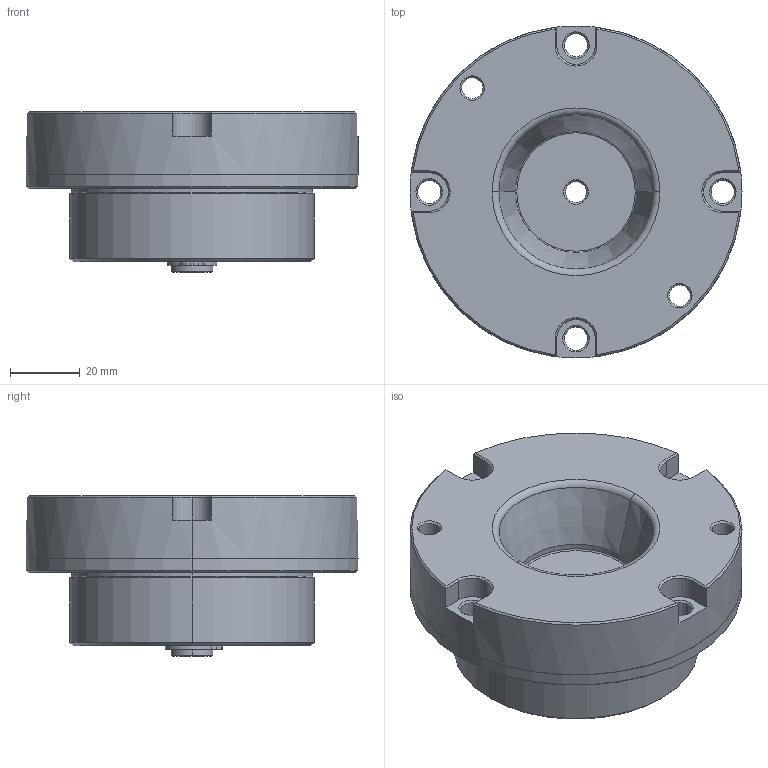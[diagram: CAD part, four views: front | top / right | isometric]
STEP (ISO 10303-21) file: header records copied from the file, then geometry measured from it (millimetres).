
FILE_DESCRIPTION (( 'STEP AP203' ), '1' );
FILE_NAME ('cp725-56095.STEP', '2021-10-25T23:38:58', ( '' ), ( '' ), 'SwSTEP 2.0', 'SolidWorks 2020', '' );
FILE_SCHEMA (( 'CONFIG_CONTROL_DESIGN' ));
Length unit declared in the file: millimetre
Products named in the file (1): cp725-56095
Bounding box: 95 x 95 x 46 mm (x, y, z)
Volume: 182925.5 mm3; surface area: 39607.2 mm2
Topology: 1 solids, 2 shells, 162 faces, 369 edges, 221 vertices
Faces by surface type: cylinder 56, cone 49, plane 41, torus 16
Entity records: 4681 total; most frequent: DIRECTION 896, CARTESIAN_POINT 777, ORIENTED_EDGE 738, AXIS2_PLACEMENT_3D 372, EDGE_CURVE 369, VERTEX_POINT 221, CIRCLE 209, EDGE_LOOP 190
